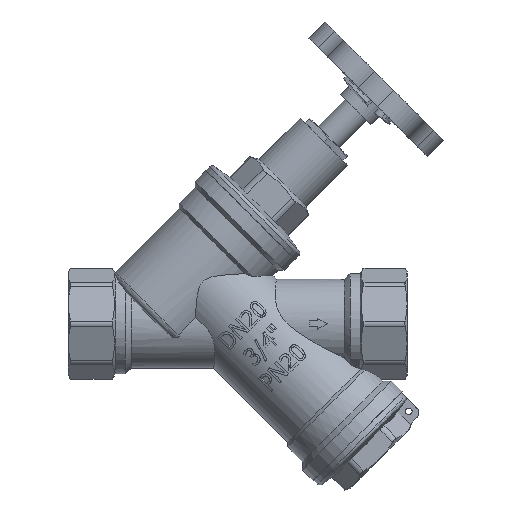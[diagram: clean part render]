
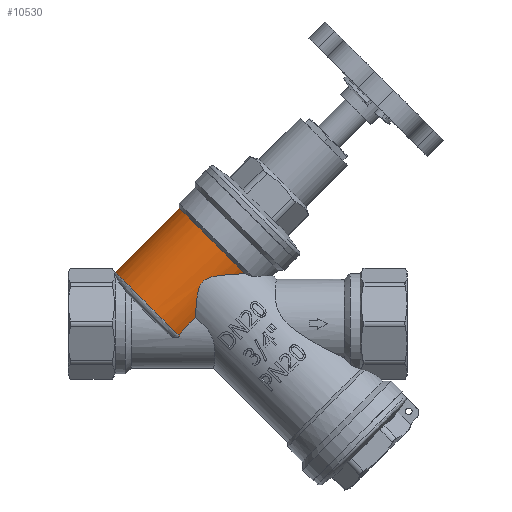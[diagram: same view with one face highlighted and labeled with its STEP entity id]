
A CAD part, top view. The second image highlights one B-rep face of the part: STEP entity #10530.
In plain terms, the highlighted cylindrical face has radius 16.5 mm (diameter 33 mm), a partial arc.
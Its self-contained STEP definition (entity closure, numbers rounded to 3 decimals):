
#395=B_SPLINE_CURVE_WITH_KNOTS('',3,(#15734,#15735,#15736,#15737,#15738,
#15739,#15740,#15741,#15742,#15743,#15744,#15745,#15746,#15747,#15748,#15749,
#15750,#15751,#15752,#15753,#15754,#15755),.UNSPECIFIED.,.F.,.F.,(4,2,2,
2,2,2,2,2,2,2,4),(4.52,4.567,4.955,5.343,
5.537,5.73,5.924,6.118,6.506,
6.893,7.147),.UNSPECIFIED.);
#408=B_SPLINE_CURVE_WITH_KNOTS('',3,(#15881,#15882,#15883,#15884,#15885,
#15886,#15887,#15888,#15889,#15890,#15891,#15892,#15893,#15894,#15895,#15896,
#15897,#15898,#15899,#15900,#15901,#15902,#15903),.UNSPECIFIED.,.F.,.F.,
(4,2,2,2,2,3,2,2,2,2,4),(-1.417,-1.163,-0.775,
-0.388,-0.194,0.,0.194,0.388,
0.775,1.163,1.21),.UNSPECIFIED.);
#752=B_SPLINE_CURVE_WITH_KNOTS('',3,(#24841,#24842,#24843,#24844,#24845,
#24846,#24847,#24848,#24849),.UNSPECIFIED.,.F.,.F.,(4,3,2,4),(-0.27,
0.,0.274,0.453),.UNSPECIFIED.);
#753=B_SPLINE_CURVE_WITH_KNOTS('',3,(#24850,#24851,#24852,#24853,#24854,
#24855,#24856,#24857),.UNSPECIFIED.,.F.,.F.,(4,2,2,4),(3.786,
3.965,4.239,4.509),.UNSPECIFIED.);
#1643=FACE_OUTER_BOUND('',#2262,.T.);
#2262=EDGE_LOOP('',(#9096,#9097,#9098,#9099,#9100,#9101));
#3743=CIRCLE('',#11283,16.5);
#3745=CIRCLE('',#11288,16.5);
#4018=VERTEX_POINT('',#15732);
#4019=VERTEX_POINT('',#15733);
#4032=VERTEX_POINT('',#15873);
#4033=VERTEX_POINT('',#15880);
#4766=VERTEX_POINT('',#24750);
#4767=VERTEX_POINT('',#24751);
#5181=EDGE_CURVE('',#4018,#4019,#395,.T.);
#5196=EDGE_CURVE('',#4032,#4033,#408,.T.);
#6293=EDGE_CURVE('',#4766,#4767,#3743,.T.);
#6305=EDGE_CURVE('',#4019,#4032,#3745,.T.);
#6307=EDGE_CURVE('',#4033,#4766,#752,.T.);
#6308=EDGE_CURVE('',#4767,#4018,#753,.T.);
#9096=ORIENTED_EDGE('',*,*,#6293,.F.);
#9097=ORIENTED_EDGE('',*,*,#6307,.F.);
#9098=ORIENTED_EDGE('',*,*,#5196,.F.);
#9099=ORIENTED_EDGE('',*,*,#6305,.F.);
#9100=ORIENTED_EDGE('',*,*,#5181,.F.);
#9101=ORIENTED_EDGE('',*,*,#6308,.F.);
#10037=CYLINDRICAL_SURFACE('',#11290,16.5);
#10530=ADVANCED_FACE('',(#1643),#10037,.T.);
#11283=AXIS2_PLACEMENT_3D('',#24752,#13226,#13227);
#11288=AXIS2_PLACEMENT_3D('',#24838,#13236,#13237);
#11290=AXIS2_PLACEMENT_3D('',#24840,#13240,#13241);
#13226=DIRECTION('center_axis',(-0.707,-0.707,0.));
#13227=DIRECTION('ref_axis',(0.409,-0.409,0.816));
#13236=DIRECTION('center_axis',(0.707,0.707,0.));
#13237=DIRECTION('ref_axis',(0.707,-0.707,0.));
#13240=DIRECTION('center_axis',(0.707,0.707,0.));
#13241=DIRECTION('ref_axis',(-0.707,0.707,0.));
#15732=CARTESIAN_POINT('',(-12.629,1.85,-13.12));
#15733=CARTESIAN_POINT('',(2.149,14.872,-12.073));
#15734=CARTESIAN_POINT('Ctrl Pts',(-12.629,1.85,-13.12));
#15735=CARTESIAN_POINT('Ctrl Pts',(-12.623,1.992,-13.193));
#15736=CARTESIAN_POINT('Ctrl Pts',(-12.616,2.134,-13.265));
#15737=CARTESIAN_POINT('Ctrl Pts',(-12.554,3.463,-13.917));
#15738=CARTESIAN_POINT('Ctrl Pts',(-12.482,4.693,-14.402));
#15739=CARTESIAN_POINT('Ctrl Pts',(-12.263,7.124,-15.176));
#15740=CARTESIAN_POINT('Ctrl Pts',(-12.124,8.309,-15.462));
#15741=CARTESIAN_POINT('Ctrl Pts',(-11.738,9.998,-15.767));
#15742=CARTESIAN_POINT('Ctrl Pts',(-11.581,10.542,-15.847));
#15743=CARTESIAN_POINT('Ctrl Pts',(-11.128,11.589,-15.963));
#15744=CARTESIAN_POINT('Ctrl Pts',(-10.835,12.093,-16.));
#15745=CARTESIAN_POINT('Ctrl Pts',(-9.921,13.006,-16.));
#15746=CARTESIAN_POINT('Ctrl Pts',(-9.418,13.299,-15.963));
#15747=CARTESIAN_POINT('Ctrl Pts',(-8.371,13.752,-15.847));
#15748=CARTESIAN_POINT('Ctrl Pts',(-7.826,13.909,-15.767));
#15749=CARTESIAN_POINT('Ctrl Pts',(-6.138,14.295,-15.462));
#15750=CARTESIAN_POINT('Ctrl Pts',(-4.952,14.434,-15.176));
#15751=CARTESIAN_POINT('Ctrl Pts',(-2.522,14.654,-14.402));
#15752=CARTESIAN_POINT('Ctrl Pts',(-1.292,14.725,-13.917));
#15753=CARTESIAN_POINT('Ctrl Pts',(0.669,14.817,-12.955));
#15754=CARTESIAN_POINT('Ctrl Pts',(1.426,14.847,-12.533));
#15755=CARTESIAN_POINT('Ctrl Pts',(2.149,14.872,-12.073));
#15873=CARTESIAN_POINT('',(2.149,14.872,12.073));
#15880=CARTESIAN_POINT('',(-12.629,1.85,13.12));
#15881=CARTESIAN_POINT('Ctrl Pts',(2.149,14.872,12.073));
#15882=CARTESIAN_POINT('Ctrl Pts',(1.426,14.847,12.533));
#15883=CARTESIAN_POINT('Ctrl Pts',(0.669,14.817,12.955));
#15884=CARTESIAN_POINT('Ctrl Pts',(-1.292,14.725,13.917));
#15885=CARTESIAN_POINT('Ctrl Pts',(-2.522,14.654,14.402));
#15886=CARTESIAN_POINT('Ctrl Pts',(-4.952,14.434,15.176));
#15887=CARTESIAN_POINT('Ctrl Pts',(-6.138,14.295,15.462));
#15888=CARTESIAN_POINT('Ctrl Pts',(-7.826,13.909,15.767));
#15889=CARTESIAN_POINT('Ctrl Pts',(-8.371,13.752,15.847));
#15890=CARTESIAN_POINT('Ctrl Pts',(-9.418,13.299,15.963));
#15891=CARTESIAN_POINT('Ctrl Pts',(-9.921,13.006,16.));
#15892=CARTESIAN_POINT('Ctrl Pts',(-10.378,12.55,16.));
#15893=CARTESIAN_POINT('Ctrl Pts',(-10.835,12.093,16.));
#15894=CARTESIAN_POINT('Ctrl Pts',(-11.128,11.589,15.963));
#15895=CARTESIAN_POINT('Ctrl Pts',(-11.581,10.542,15.847));
#15896=CARTESIAN_POINT('Ctrl Pts',(-11.738,9.998,15.767));
#15897=CARTESIAN_POINT('Ctrl Pts',(-12.124,8.309,15.462));
#15898=CARTESIAN_POINT('Ctrl Pts',(-12.263,7.124,15.176));
#15899=CARTESIAN_POINT('Ctrl Pts',(-12.482,4.693,14.402));
#15900=CARTESIAN_POINT('Ctrl Pts',(-12.554,3.463,13.917));
#15901=CARTESIAN_POINT('Ctrl Pts',(-12.616,2.134,13.265));
#15902=CARTESIAN_POINT('Ctrl Pts',(-12.623,1.992,13.193));
#15903=CARTESIAN_POINT('Ctrl Pts',(-12.629,1.85,13.12));
#24750=CARTESIAN_POINT('',(-17.468,-3.695,12.724));
#24751=CARTESIAN_POINT('',(-17.468,-3.695,-12.724));
#24752=CARTESIAN_POINT('Origin',(-24.896,3.733,0.));
#24838=CARTESIAN_POINT('Origin',(-5.804,22.825,0.));
#24840=CARTESIAN_POINT('Origin',(-16.057,12.572,0.));
#24841=CARTESIAN_POINT('Ctrl Pts',(-12.629,1.85,13.12));
#24842=CARTESIAN_POINT('Ctrl Pts',(-13.379,1.255,13.204));
#24843=CARTESIAN_POINT('Ctrl Pts',(-14.086,0.636,
13.25));
#24844=CARTESIAN_POINT('Ctrl Pts',(-14.723,0.,
13.25));
#24845=CARTESIAN_POINT('Ctrl Pts',(-15.369,-0.647,
13.25));
#24846=CARTESIAN_POINT('Ctrl Pts',(-15.995,-1.365,13.203));
#24847=CARTESIAN_POINT('Ctrl Pts',(-16.885,-2.637,
12.995));
#24848=CARTESIAN_POINT('Ctrl Pts',(-17.2,-3.161,
12.879));
#24849=CARTESIAN_POINT('Ctrl Pts',(-17.468,-3.695,
12.724));
#24850=CARTESIAN_POINT('Ctrl Pts',(-17.468,-3.695,
-12.724));
#24851=CARTESIAN_POINT('Ctrl Pts',(-17.2,-3.161,
-12.879));
#24852=CARTESIAN_POINT('Ctrl Pts',(-16.885,-2.637,
-12.995));
#24853=CARTESIAN_POINT('Ctrl Pts',(-15.995,-1.365,-13.203));
#24854=CARTESIAN_POINT('Ctrl Pts',(-15.369,-0.647,
-13.25));
#24855=CARTESIAN_POINT('Ctrl Pts',(-14.086,0.636,
-13.25));
#24856=CARTESIAN_POINT('Ctrl Pts',(-13.379,1.255,-13.204));
#24857=CARTESIAN_POINT('Ctrl Pts',(-12.629,1.85,-13.12));
